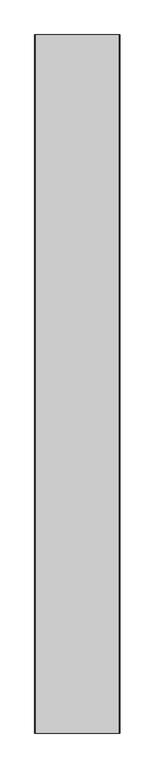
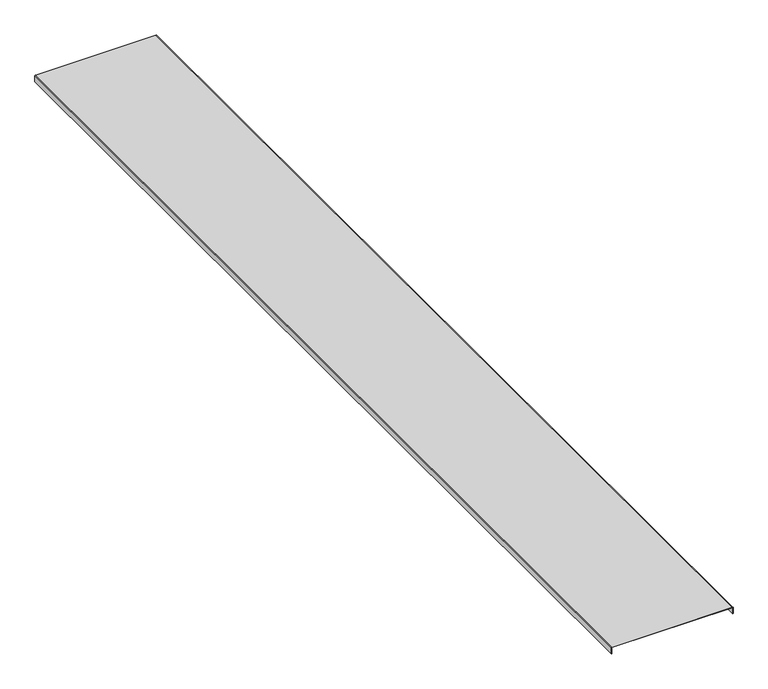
"""IFC4 building model written with IfcOpenShell, lengths in millimetres: proxy geometry, Cable_Tray_Cover_CT_Basorcanal : Basorcanal CT 100X300 (cover)."""

from ifc_helpers import new_model, si_unit, point, frame, frame_2d, origin, place, context, project, spatial, polyline, circle_curve, trimmed, segment, composite_curve, outline, extrude, source, transform, mapped, element, save


def generic_models_216e3be9(model_context):
    return source(origin(), model_context, "Body", "SweptSolid", [
        extrude(outline(composite_curve([segment(trimmed(circle_curve(frame_2d((-1.0, -149.0)), 1.0), [point((-1.0, -150.0))], [point((0.0, -149.0))], True, "CARTESIAN"), True, "CONTINUOUS"), segment(polyline([(0.0, -149.0), (0.0, 149.0)]), True, "CONTINUOUS"), segment(trimmed(circle_curve(frame_2d((-1.0, 149.0)), 1.0), [point((0.0, 149.0))], [point((-1.0, 150.0))], True, "CARTESIAN"), True, "CONTINUOUS"), segment(polyline([(-1.0, 150.0), (-16.0, 150.0), (-16.0, 151.0), (-1.0, 151.0)]), True, "CONTINUOUS"), segment(trimmed(circle_curve(frame_2d((-1.0, 149.0)), 2.0), [point((-1.0, 151.0))], [point((1.0, 149.0))], False, "CARTESIAN"), True, "CONTINUOUS"), segment(polyline([(1.0, 149.0), (1.0, -149.0)]), True, "CONTINUOUS"), segment(trimmed(circle_curve(frame_2d((-1.0, -149.0)), 2.0), [point((1.0, -149.0))], [point((-1.0, -151.0))], False, "CARTESIAN"), True, "CONTINUOUS"), segment(polyline([(-1.0, -151.0), (-16.0, -151.0), (-16.0, -150.0), (-1.0, -150.0)]), True, "CONTINUOUS")], self_intersect=False)), frame((0.0, 0.0, 0.0), z_axis=(0.0, 1.0, 0.0), x_axis=(0.0, 0.0, 1.0)), (0.0, 0.0, 1.0), 2473.2),
    ])


if __name__ == "__main__":
    model = new_model("IFC4")
    model_context = context("Model", 3, world=origin())
    ifc_project = project(units=[si_unit("LENGTHUNIT", "METRE", prefix="MILLI")], contexts=[model_context])
    site = spatial("IfcSite", under=ifc_project)
    building = spatial("IfcBuilding", under=site)
    placement = place(None, origin())
    generic_models_shape = generic_models_216e3be9(model_context)
    element("IfcBuildingElementProxy", 1, Name="Cable_Tray_Cover_CT_Basorcanal : Basorcanal CT 100X300 (cover)", ObjectType="Cable_Tray_Cover_CT_Basorcanal : Basorcanal CT 100X300 (cover)", at=placement, inside=building, context=model_context, shape_type="MappedRepresentation", body=[
        mapped(generic_models_shape, transform((0.0, 0.0, 0.0), x_axis=(1.0, 0.0, 0.0), y_axis=(0.0, 1.0, 0.0), z_axis=(0.0, 0.0, 1.0))),
    ])
    save(model, "model.ifc")
